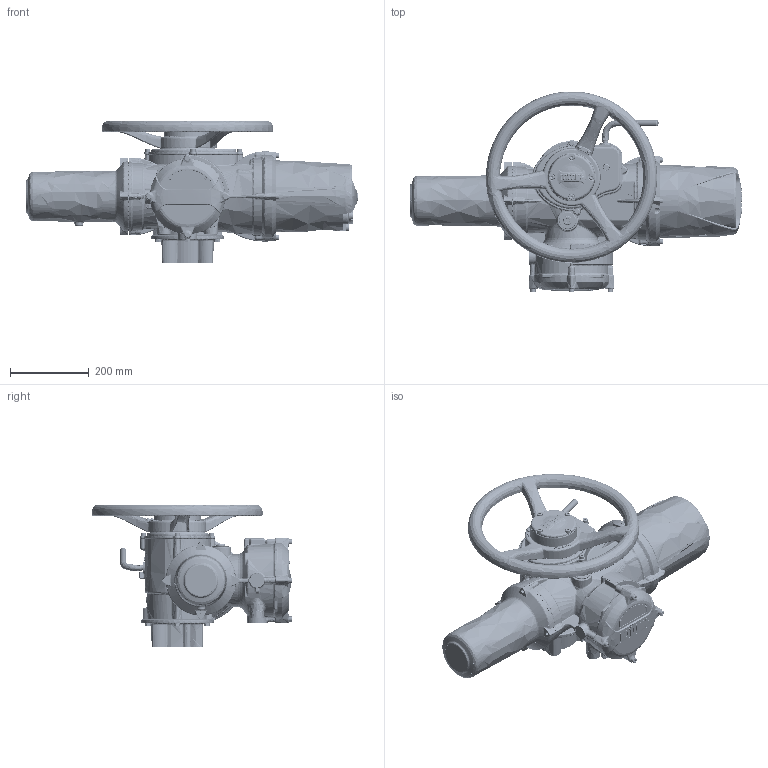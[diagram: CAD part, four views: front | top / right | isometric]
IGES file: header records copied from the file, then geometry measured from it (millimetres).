
Start section: C
Global section: file name: IQ3H-2SP-THW-AZ3-1.igs; native system: By Siemens PLM Incorporated; preprocessor: XPlus GENERIC/IGES 23.0.57; author: Author; organization: Title; date: 20210329.112320; units: millimetre
Bounding box: 843.5 x 510.09 x 363.24 mm (x, y, z)
Surface area: 1378677.8 mm2 (no closed solid volume)
Topology: 0 solids, 0 shells, 6422 faces, 35904 edges, 35627 vertices
Faces by surface type: bspline 6422
